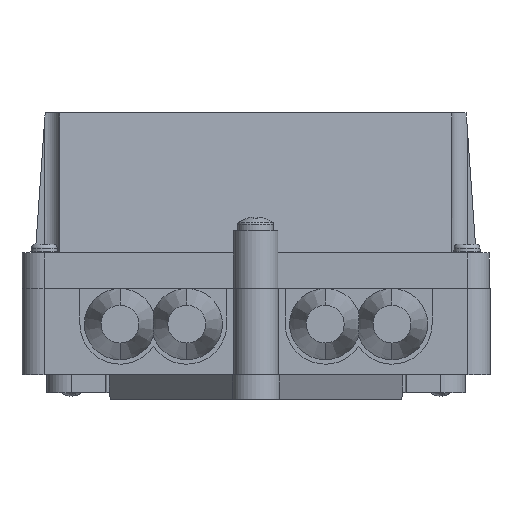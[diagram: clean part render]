
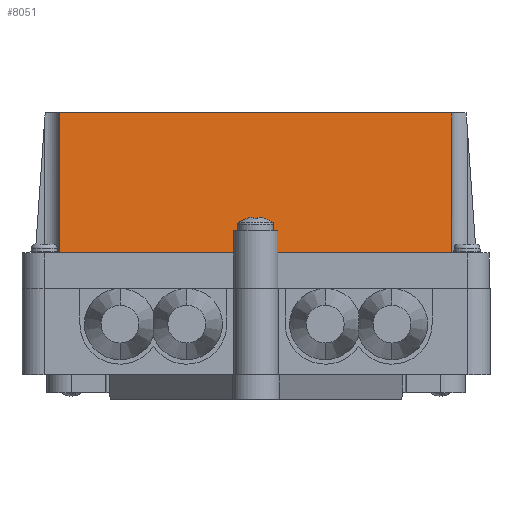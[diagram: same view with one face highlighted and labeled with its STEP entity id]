
A CAD part, front view. The second image highlights one B-rep face of the part: STEP entity #8051.
In plain terms, the highlighted planar face has unit normal (0, -0.998, 0.07).
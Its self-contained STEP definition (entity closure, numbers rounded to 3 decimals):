
#195 = CARTESIAN_POINT ( 'NONE',  ( -43.177, -21.762, 31.5 ) ) ;
#2625 = CARTESIAN_POINT ( 'NONE',  ( 5.829, -24.555, -8.448 ) ) ;
#4413 = EDGE_CURVE ( 'NONE', #11605, #7655, #18477, .T. ) ;
#4866 = ORIENTED_EDGE ( 'NONE', *, *, #51192, .F. ) ;
#5484 = EDGE_CURVE ( 'NONE', #48917, #7655, #45810, .T. ) ;
#5730 = VECTOR ( 'NONE', #32711, 1000. ) ;
#6509 = VECTOR ( 'NONE', #16288, 1000. ) ;
#6844 = VERTEX_POINT ( 'NONE', #45423 ) ;
#7591 = VERTEX_POINT ( 'NONE', #16965 ) ;
#7655 = VERTEX_POINT ( 'NONE', #17520 ) ;
#7956 = VERTEX_POINT ( 'NONE', #24426 ) ;
#8031 = CARTESIAN_POINT ( 'NONE',  ( 44.835, -21.762, 31.5 ) ) ;
#8051 = ADVANCED_FACE ( 'NONE', ( #20663 ), #24610, .T. ) ;
#8838 = AXIS2_PLACEMENT_3D ( 'NONE', #12042, #42068, #16367 ) ;
#8895 = DIRECTION ( 'NONE',  ( -1., 0., 0. ) ) ;
#10455 = ORIENTED_EDGE ( 'NONE', *, *, #54187, .F. ) ;
#10460 = CARTESIAN_POINT ( 'NONE',  ( 5.829, -23.964, 0. ) ) ;
#11554 = VECTOR ( 'NONE', #43091, 1000. ) ;
#11605 = VERTEX_POINT ( 'NONE', #15661 ) ;
#12042 = CARTESIAN_POINT ( 'NONE',  ( -48.671, -23.964, 0. ) ) ;
#14316 = CARTESIAN_POINT ( 'NONE',  ( 44.831, -21.829, 30.535 ) ) ;
#14924 = CARTESIAN_POINT ( 'NONE',  ( 44.829, -21.964, 28.601 ) ) ;
#15440 = VERTEX_POINT ( 'NONE', #8031 ) ;
#15661 = CARTESIAN_POINT ( 'NONE',  ( -43.171, -23.964, 0. ) ) ;
#15980 = ORIENTED_EDGE ( 'NONE', *, *, #5484, .F. ) ;
#16288 = DIRECTION ( 'NONE',  ( 0., -0.07, -0.998 ) ) ;
#16344 = VECTOR ( 'NONE', #8895, 1000. ) ;
#16367 = DIRECTION ( 'NONE',  ( 0., -0.07, -0.998 ) ) ;
#16965 = CARTESIAN_POINT ( 'NONE',  ( -43.171, -21.964, 28.601 ) ) ;
#17344 = VERTEX_POINT ( 'NONE', #10460 ) ;
#17520 = CARTESIAN_POINT ( 'NONE',  ( -4.171, -23.964, 0. ) ) ;
#18477 = LINE ( 'NONE', #21253, #51410 ) ;
#19249 = EDGE_CURVE ( 'NONE', #7591, #22695, #53477, .T. ) ;
#20111 = CARTESIAN_POINT ( 'NONE',  ( -48.671, -23.964, 0. ) ) ;
#20663 = FACE_OUTER_BOUND ( 'NONE', #35061, .T. ) ;
#21193 = VERTEX_POINT ( 'NONE', #14924 ) ;
#21253 = CARTESIAN_POINT ( 'NONE',  ( -48.671, -23.964, 0. ) ) ;
#21638 = CARTESIAN_POINT ( 'NONE',  ( -43.171, -21.964, 28.601 ) ) ;
#22695 = VERTEX_POINT ( 'NONE', #35010 ) ;
#22783 = CARTESIAN_POINT ( 'NONE',  ( 0., -21.762, 31.5 ) ) ;
#22923 = CARTESIAN_POINT ( 'NONE',  ( 44.829, -21.964, 28.601 ) ) ;
#24283 = LINE ( 'NONE', #20111, #35687 ) ;
#24426 = CARTESIAN_POINT ( 'NONE',  ( 5.829, -23.615, 5. ) ) ;
#24610 = PLANE ( 'NONE',  #8838 ) ;
#25916 = EDGE_CURVE ( 'NONE', #17344, #6844, #24283, .T. ) ;
#25970 = CARTESIAN_POINT ( 'NONE',  ( -43.173, -21.829, 30.535 ) ) ;
#26531 = ORIENTED_EDGE ( 'NONE', *, *, #34872, .F. ) ;
#26700 = LINE ( 'NONE', #22783, #49534 ) ;
#27430 = ORIENTED_EDGE ( 'NONE', *, *, #49330, .F. ) ;
#27746 = EDGE_CURVE ( 'NONE', #7956, #17344, #50097, .T. ) ;
#29202 = ORIENTED_EDGE ( 'NONE', *, *, #4413, .T. ) ;
#29428 = LINE ( 'NONE', #33178, #6509 ) ;
#30111 = DIRECTION ( 'NONE',  ( 1., 0., 0. ) ) ;
#30853 = CARTESIAN_POINT ( 'NONE',  ( -4.171, -23.615, 5. ) ) ;
#31564 = DIRECTION ( 'NONE',  ( 0., 0.07, 0.998 ) ) ;
#32711 = DIRECTION ( 'NONE',  ( 0., -0.07, -0.998 ) ) ;
#33178 = CARTESIAN_POINT ( 'NONE',  ( 44.829, -23.964, 0. ) ) ;
#34143 = EDGE_CURVE ( 'NONE', #15440, #21193, #47161, .T. ) ;
#34611 = CARTESIAN_POINT ( 'NONE',  ( 48.329, -23.615, 5. ) ) ;
#34872 = EDGE_CURVE ( 'NONE', #21193, #6844, #29428, .T. ) ;
#35010 = CARTESIAN_POINT ( 'NONE',  ( -43.177, -21.762, 31.5 ) ) ;
#35061 = EDGE_LOOP ( 'NONE', ( #47239, #10455, #29202, #15980, #27430, #49847, #36979, #26531, #40756, #4866 ) ) ;
#35687 = VECTOR ( 'NONE', #45828, 1000. ) ;
#36979 = ORIENTED_EDGE ( 'NONE', *, *, #25916, .T. ) ;
#38790 = CARTESIAN_POINT ( 'NONE',  ( -4.171, -23.964, 0. ) ) ;
#40756 = ORIENTED_EDGE ( 'NONE', *, *, #34143, .F. ) ;
#42068 = DIRECTION ( 'NONE',  ( 0., -0.998, 0.07 ) ) ;
#43091 = DIRECTION ( 'NONE',  ( 0., -0.07, -0.998 ) ) ;
#44257 = VECTOR ( 'NONE', #31564, 1000. ) ;
#44317 = CARTESIAN_POINT ( 'NONE',  ( -43.171, -23.964, 0. ) ) ;
#44335 = CARTESIAN_POINT ( 'NONE',  ( 44.835, -21.762, 31.5 ) ) ;
#45423 = CARTESIAN_POINT ( 'NONE',  ( 44.829, -23.964, 0. ) ) ;
#45810 = LINE ( 'NONE', #38790, #11554 ) ;
#45828 = DIRECTION ( 'NONE',  ( 1., 0., 0. ) ) ;
#47161 =( BOUNDED_CURVE ( )  B_SPLINE_CURVE ( 3, ( #44335, #14316, #48641, #22923 ),
 .UNSPECIFIED., .F., .F. ) 
 B_SPLINE_CURVE_WITH_KNOTS ( ( 4, 4 ),
 ( 4.654, 4.712 ),
 .UNSPECIFIED. ) 
 CURVE ( )  GEOMETRIC_REPRESENTATION_ITEM ( )  RATIONAL_B_SPLINE_CURVE ( ( 1., 1., 1., 1. ) ) 
 REPRESENTATION_ITEM ( '' )  );
#47239 = ORIENTED_EDGE ( 'NONE', *, *, #19249, .F. ) ;
#48641 = CARTESIAN_POINT ( 'NONE',  ( 44.829, -21.897, 29.568 ) ) ;
#48917 = VERTEX_POINT ( 'NONE', #30853 ) ;
#49226 = LINE ( 'NONE', #34611, #16344 ) ;
#49330 = EDGE_CURVE ( 'NONE', #7956, #48917, #49226, .T. ) ;
#49534 = VECTOR ( 'NONE', #52843, 1000. ) ;
#49847 = ORIENTED_EDGE ( 'NONE', *, *, #27746, .T. ) ;
#50097 = LINE ( 'NONE', #2625, #5730 ) ;
#51192 = EDGE_CURVE ( 'NONE', #22695, #15440, #26700, .T. ) ;
#51410 = VECTOR ( 'NONE', #30111, 1000. ) ;
#51717 = CARTESIAN_POINT ( 'NONE',  ( -43.171, -21.897, 29.568 ) ) ;
#52843 = DIRECTION ( 'NONE',  ( 1., 0., 0. ) ) ;
#53477 =( BOUNDED_CURVE ( )  B_SPLINE_CURVE ( 3, ( #21638, #51717, #25970, #195 ),
 .UNSPECIFIED., .F., .F. ) 
 B_SPLINE_CURVE_WITH_KNOTS ( ( 4, 4 ),
 ( 1.571, 1.629 ),
 .UNSPECIFIED. ) 
 CURVE ( )  GEOMETRIC_REPRESENTATION_ITEM ( )  RATIONAL_B_SPLINE_CURVE ( ( 1., 1., 1., 1. ) ) 
 REPRESENTATION_ITEM ( '' )  );
#54187 = EDGE_CURVE ( 'NONE', #11605, #7591, #55674, .T. ) ;
#55674 = LINE ( 'NONE', #44317, #44257 ) ;
